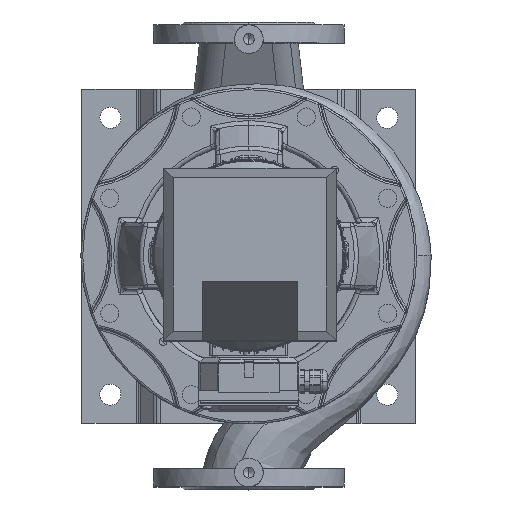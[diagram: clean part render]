
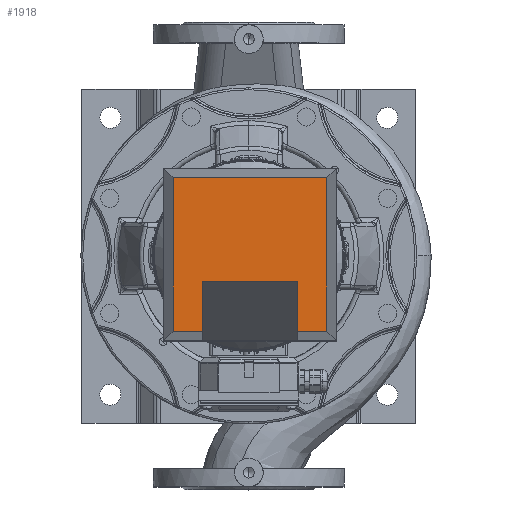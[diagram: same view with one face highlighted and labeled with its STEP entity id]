
A CAD part, top view. The second image highlights one B-rep face of the part: STEP entity #1918.
In plain terms, the highlighted planar face has unit normal (0, 0, 1) as drawn and (0, 1, 0) by its records, which use the part's own axes.
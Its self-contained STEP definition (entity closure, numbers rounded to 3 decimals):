
#1918=ADVANCED_FACE('',(#3516),#3517,.T.);
#1928=EDGE_CURVE('',#3529,#3532,#3533,.T.);
#3516=FACE_OUTER_BOUND('',#9421,.T.);
#3517=PLANE('',#9422);
#3529=VERTEX_POINT('',#9435);
#3532=VERTEX_POINT('',#9440);
#3533=LINE('',#9441,#9442);
#9421=EDGE_LOOP('',(#17067,#17068,#17069,#17070,#17071,#17072,#17073,#17074));
#9422=AXIS2_PLACEMENT_3D('',#17075,#17076,#17077);
#9435=CARTESIAN_POINT('',(50.0,114.0,118.64));
#9440=CARTESIAN_POINT('',(50.0,114.0,171.0));
#9441=CARTESIAN_POINT('',(50.0,114.0,90.179));
#9442=VECTOR('',#17103,1.0);
#17067=ORIENTED_EDGE('',*,*,#1928,.T.);
#17068=ORIENTED_EDGE('',*,*,#32487,.F.);
#17069=ORIENTED_EDGE('',*,*,#32495,.F.);
#17070=ORIENTED_EDGE('',*,*,#32497,.F.);
#17071=ORIENTED_EDGE('',*,*,#32489,.F.);
#17072=ORIENTED_EDGE('',*,*,#32483,.F.);
#17073=ORIENTED_EDGE('',*,*,#32476,.T.);
#17074=ORIENTED_EDGE('',*,*,#32479,.T.);
#17075=CARTESIAN_POINT('',(0.0,114.0,0.0));
#17076=DIRECTION('',(0.0,1.0,-0.0));
#17077=DIRECTION('',(-1.0,0.0,0.0));
#17103=DIRECTION('',(0.0,0.0,1.0));
#32476=EDGE_CURVE('',#51434,#51436,#51438,.T.);
#32479=EDGE_CURVE('',#51436,#3529,#51441,.T.);
#32483=EDGE_CURVE('',#51434,#51445,#51446,.T.);
#32487=EDGE_CURVE('',#51451,#3532,#51453,.T.);
#32489=EDGE_CURVE('',#51445,#51455,#51456,.T.);
#32495=EDGE_CURVE('',#51461,#51451,#51463,.T.);
#32497=EDGE_CURVE('',#51455,#51461,#51465,.T.);
#51434=VERTEX_POINT('',#60993);
#51436=VERTEX_POINT('',#60996);
#51438=LINE('',#60999,#61000);
#51441=LINE('',#61004,#61005);
#51445=VERTEX_POINT('',#61010);
#51446=LINE('',#61011,#61012);
#51451=VERTEX_POINT('',#61019);
#51453=LINE('',#61022,#61023);
#51455=VERTEX_POINT('',#61025);
#51456=LINE('',#61026,#61027);
#51461=VERTEX_POINT('',#61035);
#51463=LINE('',#61038,#61039);
#51465=LINE('',#61041,#61042);
#60993=CARTESIAN_POINT('',(-50.0,114.0,171.0));
#60996=CARTESIAN_POINT('',(-50.0,114.0,118.64));
#60999=CARTESIAN_POINT('',(-50.0,114.0,90.179));
#61000=VECTOR('',#71419,1.0);
#61004=CARTESIAN_POINT('',(25.0,114.0,118.64));
#61005=VECTOR('',#71421,1.0);
#61010=CARTESIAN_POINT('',(-80.5,114.0,171.0));
#61011=CARTESIAN_POINT('',(45.25,114.0,171.0));
#61012=VECTOR('',#71423,1.0);
#61019=CARTESIAN_POINT('',(80.5,114.0,171.0));
#61022=CARTESIAN_POINT('',(45.25,114.0,171.0));
#61023=VECTOR('',#71427,1.0);
#61025=CARTESIAN_POINT('',(-80.5,114.0,10.0));
#61026=CARTESIAN_POINT('',(-80.5,114.0,0.0));
#61027=VECTOR('',#71428,1.0);
#61035=CARTESIAN_POINT('',(80.5,114.0,10.0));
#61038=CARTESIAN_POINT('',(80.5,114.0,0.0));
#61039=VECTOR('',#71433,1.0);
#61041=CARTESIAN_POINT('',(45.25,114.0,10.0));
#61042=VECTOR('',#71434,1.0);
#71419=DIRECTION('',(-0.0,0.0,-1.0));
#71421=DIRECTION('',(1.0,-0.0,0.0));
#71423=DIRECTION('',(-1.0,0.0,-0.0));
#71427=DIRECTION('',(-1.0,0.0,-0.0));
#71428=DIRECTION('',(-0.0,-0.0,-1.0));
#71433=DIRECTION('',(-0.0,0.0,1.0));
#71434=DIRECTION('',(1.0,-0.0,-0.0));
